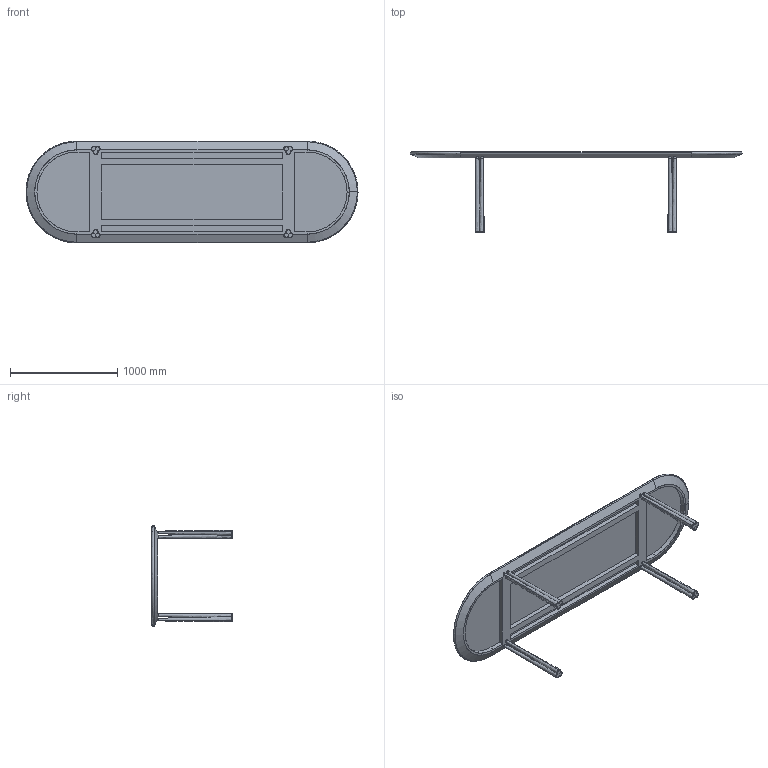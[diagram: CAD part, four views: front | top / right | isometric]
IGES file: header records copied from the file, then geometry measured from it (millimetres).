
Start section: SolidWorks IGES file using analytic representation for surfaces
Global section: file name: E:\Box Sync\Jason Miller\051 Elliot Dining Table\sales related\SW\051G Elliot Dining Table\051G Elliot Dining Table.IGS; native system: SolidWorks 2016; preprocessor: SolidWorks 2016; author: Kumagai; date: 180320.180502; units: millimetre
Bounding box: 3099.86 x 753.5 x 950 mm (x, y, z)
Surface area: 7363046 mm2 (no closed solid volume)
Topology: 0 solids, 0 shells, 223 faces, 5252 edges, 5252 vertices
Faces by surface type: bspline 161, revolution 62
